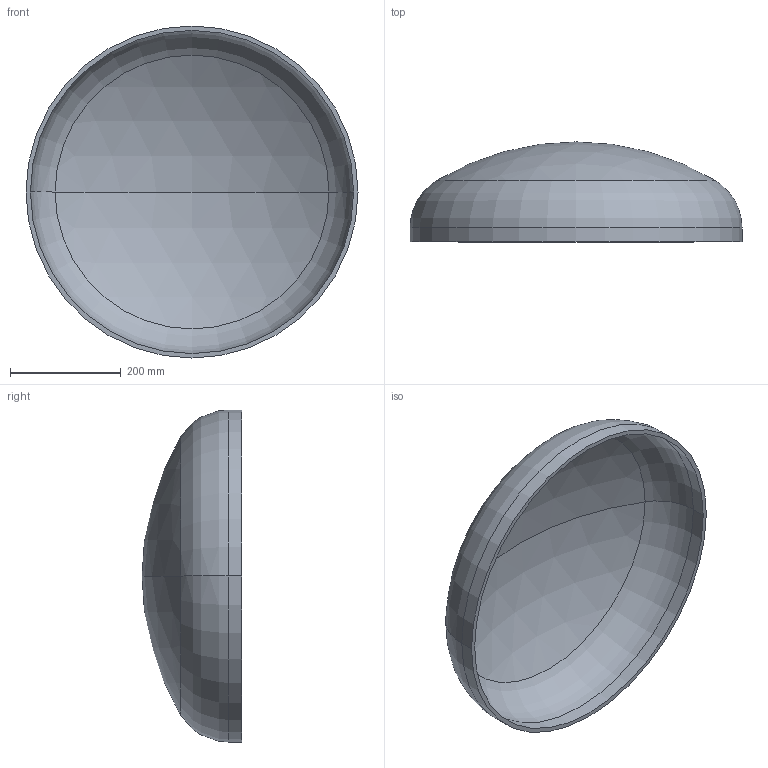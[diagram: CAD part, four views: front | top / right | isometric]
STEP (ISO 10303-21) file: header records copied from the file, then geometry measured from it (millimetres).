
FILE_DESCRIPTION (( 'STEP AP203' ), '1' );
FILE_NAME ('DIN 28013 Korbbogenform_-_Boden DIN 28013 - 600 x 25 - I - s=8.step', '2016-07-01T07:57:02', ( '' ), ( '' ), 'SwSTEP 2.0', 'SolidWorks 2013', '' );
FILE_SCHEMA (( 'CONFIG_CONTROL_DESIGN' ));
Length unit declared in the file: millimetre
Products named in the file (1): DIN 28013 Korbbogenform_-_Boden DIN 28013 - 600 x 25 - I - s=8
Bounding box: 600 x 180.52 x 600 mm (x, y, z)
Volume: 3447384.5 mm3; surface area: 876858.5 mm2
Topology: 1 solids, 1 shells, 13 faces, 24 edges, 14 vertices
Faces by surface type: torus 4, cylinder 4, sphere 4, plane 1
Entity records: 407 total; most frequent: DIRECTION 72, CARTESIAN_POINT 52, ORIENTED_EDGE 48, AXIS2_PLACEMENT_3D 34, EDGE_CURVE 24, CIRCLE 20, VERTEX_POINT 14, EDGE_LOOP 14
